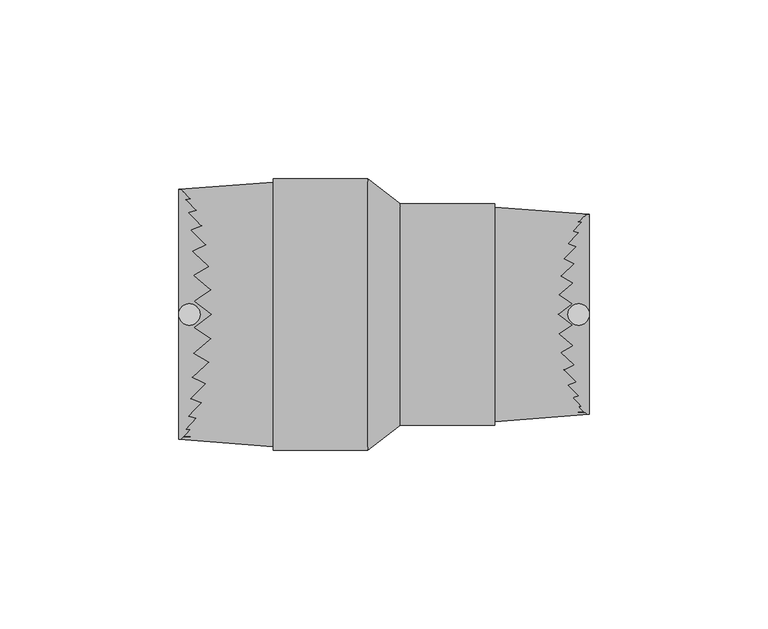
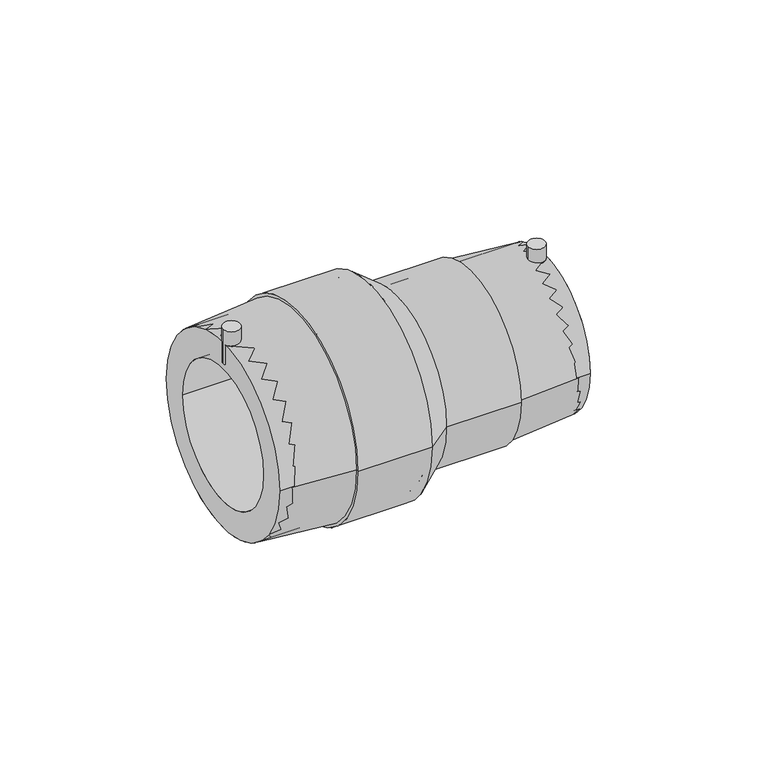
"""IFC4 building model written with IfcOpenShell, lengths in millimetres: pipe fitting geometry, EGB_VASEN_ PPR_Manguito reductor electrosoldable WXRD110 : Manguito reductor electrosoldable WXRD110."""

from ifc_helpers import new_model, si_unit, point, frame, frame_2d, origin, origin_2d, place, context, project, spatial, polyline, circle_curve, trimmed, segment, composite_curve, outline, extrude, source, transform, mapped, element, save
from ifc_brep_helpers import plane_surface, cylinder_surface, revolved_surface, advanced_brep


def pipe_fitting_3c43d94e(model_context):
    return source(origin(), model_context, "Body", "SolidModel", [
        extrude(outline(composite_curve([segment(trimmed(circle_curve(frame_2d((54.5, 0.0)), 3.0), [point((51.5, 0.0))], [point((57.5, 0.0))], False, "CARTESIAN"), True, "CONTINUOUS"), segment(trimmed(circle_curve(frame_2d((54.5, 0.0)), 3.0), [point((57.5, 0.0))], [point((51.5, 0.0))], False, "CARTESIAN"), True, "CONTINUOUS")], self_intersect=False)), frame((0.0, 0.0, 22.0), z_axis=(0.0, 0.0, 1.0), x_axis=(1.0, 0.0, 0.0)), (0.0, 0.0, 1.0), 11.0),
        extrude(outline(composite_curve([segment(trimmed(circle_curve(frame_2d((-54.5, 0.0)), 3.0), [point((-57.5, 0.0))], [point((-51.5, 0.0))], False, "CARTESIAN"), True, "CONTINUOUS"), segment(trimmed(circle_curve(frame_2d((-54.5, 0.0)), 3.0), [point((-51.5, 0.0))], [point((-57.5, 0.0))], False, "CARTESIAN"), True, "CONTINUOUS")], self_intersect=False)), frame((0.0, 0.0, 27.0), z_axis=(0.0, 0.0, 1.0), x_axis=(1.0, 0.0, 0.0)), (0.0, 0.0, 1.0), 13.0),
        extrude(outline(composite_curve([segment(trimmed(circle_curve(origin_2d(), 28.0), [point((-28.0, 0.0))], [point((28.0, 0.0))], False, "CARTESIAN"), True, "CONTINUOUS"), segment(trimmed(circle_curve(origin_2d(), 28.0), [point((28.0, 0.0))], [point((-28.0, 0.0))], False, "CARTESIAN"), True, "CONTINUOUS")], self_intersect=False), holes=[composite_curve([segment(trimmed(circle_curve(origin_2d(), 20.0), [point((-20.0, 0.0))], [point((20.0, 0.0))], True, "CARTESIAN"), True, "CONTINUOUS"), segment(trimmed(circle_curve(origin_2d(), 20.0), [point((20.0, 0.0))], [point((-20.0, 0.0))], True, "CARTESIAN"), True, "CONTINUOUS")], self_intersect=False)]), frame((4.6, 0.0, 0.0), z_axis=(1.0, 0.0, 0.0), x_axis=(0.0, 1.0, 0.0)), (0.0, 0.0, 1.0), 52.9),
        extrude(outline(composite_curve([segment(trimmed(circle_curve(origin_2d(), 35.0), [point((-35.0, 0.0))], [point((35.0, 0.0))], False, "CARTESIAN"), True, "CONTINUOUS"), segment(trimmed(circle_curve(origin_2d(), 35.0), [point((35.0, 0.0))], [point((-35.0, 0.0))], False, "CARTESIAN"), True, "CONTINUOUS")], self_intersect=False), holes=[composite_curve([segment(trimmed(circle_curve(origin_2d(), 25.0), [point((-25.0, 0.0))], [point((25.0, 0.0))], True, "CARTESIAN"), True, "CONTINUOUS"), segment(trimmed(circle_curve(origin_2d(), 25.0), [point((25.0, 0.0))], [point((-25.0, 0.0))], True, "CARTESIAN"), True, "CONTINUOUS")], self_intersect=False)]), frame((-57.5, 0.0, 0.0), z_axis=(1.0, 0.0, 0.0), x_axis=(0.0, 1.0, 0.0)), (0.0, 0.0, 1.0), 52.9),
        advanced_brep(
        [(4.6, -28.0, 0.0), (4.6, 28.0, 0.0), (-4.6, -35.0, 0.0), (-4.6, 35.0, 0.0)],
        [
            (0, 1, circle_curve(frame((4.6, 0.0, 0.0), z_axis=(1.0, 0.0, 0.0), x_axis=(0.0, -1.0, 0.0)), 28.0)),
            (1, 0, circle_curve(frame((4.6, 0.0, 0.0), z_axis=(1.0, 0.0, 0.0), x_axis=(0.0, 1.0, 0.0)), 28.0)),
            (2, 3, circle_curve(frame((-4.6, 0.0, 0.0), z_axis=(-1.0, 0.0, 0.0), x_axis=(0.0, 1.0, 0.0)), 35.0)),
            (3, 2, circle_curve(frame((-4.6, 0.0, 0.0), z_axis=(-1.0, 0.0, 0.0), x_axis=(0.0, -1.0, 0.0)), 35.0)),
            (3, 1),
            (0, 2),
        ],
        [
            plane_surface(frame((4.6, 0.0, 0.0), z_axis=(1.0, 0.0, 0.0), x_axis=(0.0, 0.0, -1.0))),
            plane_surface(frame((-4.6, 0.0, 0.0), z_axis=(-1.0, 0.0, 0.0), x_axis=(0.0, 0.0, -1.0))),
            revolved_surface(polyline([(4.600000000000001, -27.999999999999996, 0.0), (-4.600000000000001, -35.0, 0.0)]), (41.4, 0.0, 0.0), (-1.0, 0.0, 0.0)),
            revolved_surface(polyline([(4.600000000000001, 27.999999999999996, 0.0), (-4.600000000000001, 35.0, 0.0)]), (41.4, 0.0, 0.0), (-1.0, 0.0, 0.0)),
        ],
        [
            (0, [[1, 2]]),
            (1, [[3, 4]]),
            (2, [[-4, 5, -1, 6]]),
            (3, [[-3, -6, -2, -5]]),
        ],
    ),
        advanced_brep(
        [(4.6, -28.0, 0.0), (4.6, 28.0, 0.0), (-4.6, 35.0, 0.0), (-4.6, -35.0, 0.0), (57.5, -28.0, 0.0), (57.5, 28.0, 0.0), (31.05, -30.0, 0.0), (31.05, 30.0, 0.0), (31.05, -31.0, 0.0), (31.05, 31.0, 0.0), (4.6, -31.0, 0.0), (4.6, 31.0, 0.0), (-4.6, -38.0, 0.0), (-4.6, 38.0, 0.0), (-31.05, -38.0, 0.0), (-31.05, 38.0, 0.0), (-31.05, -37.0, 0.0), (-31.05, 37.0, 0.0), (-57.5, -35.0, 0.0), (-57.5, 35.0, 0.0)],
        [
            (0, 1, circle_curve(frame((4.6, 0.0, 0.0), z_axis=(1.0, 0.0, 0.0), x_axis=(0.0, 1.0, 0.0)), 28.0)),
            (1, 2),
            (2, 3, circle_curve(frame((-4.6, 0.0, 0.0), z_axis=(-1.0, 0.0, 0.0), x_axis=(0.0, 1.0, 0.0)), 35.0)),
            (3, 0),
            (1, 0, circle_curve(frame((4.6, 0.0, 0.0), z_axis=(1.0, 0.0, 0.0), x_axis=(0.0, 1.0, 0.0)), 28.0)),
            (3, 2, circle_curve(frame((-4.6, 0.0, 0.0), z_axis=(-1.0, 0.0, 0.0), x_axis=(0.0, 1.0, 0.0)), 35.0)),
            (4, 5, circle_curve(frame((57.5, 0.0, 0.0), z_axis=(1.0, 0.0, 0.0), x_axis=(0.0, 1.0, 0.0)), 28.0)),
            (5, 1),
            (0, 4),
            (5, 4, circle_curve(frame((57.5, 0.0, 0.0), z_axis=(1.0, 0.0, 0.0), x_axis=(0.0, 1.0, 0.0)), 28.0)),
            (6, 7, circle_curve(frame((31.05, 0.0, 0.0), z_axis=(1.0, 0.0, 0.0), x_axis=(0.0, 1.0, 0.0)), 30.0)),
            (7, 5),
            (4, 6),
            (7, 6, circle_curve(frame((31.05, 0.0, 0.0), z_axis=(1.0, 0.0, 0.0), x_axis=(0.0, 1.0, 0.0)), 30.0)),
            (8, 9, circle_curve(frame((31.05, 0.0, 0.0), z_axis=(1.0, 0.0, 0.0), x_axis=(0.0, 1.0, 0.0)), 31.0)),
            (9, 7),
            (6, 8),
            (9, 8, circle_curve(frame((31.05, 0.0, 0.0), z_axis=(1.0, 0.0, 0.0), x_axis=(0.0, 1.0, 0.0)), 31.0)),
            (10, 11, circle_curve(frame((4.6, 0.0, 0.0), z_axis=(1.0, 0.0, 0.0), x_axis=(0.0, 1.0, 0.0)), 31.0)),
            (11, 9),
            (8, 10),
            (11, 10, circle_curve(frame((4.6, 0.0, 0.0), z_axis=(1.0, 0.0, 0.0), x_axis=(0.0, 1.0, 0.0)), 31.0)),
            (12, 13, circle_curve(frame((-4.6, 0.0, 0.0), z_axis=(1.0, 0.0, 0.0), x_axis=(0.0, 1.0, 0.0)), 38.0)),
            (13, 11),
            (10, 12),
            (13, 12, circle_curve(frame((-4.6, 0.0, 0.0), z_axis=(1.0, 0.0, 0.0), x_axis=(0.0, 1.0, 0.0)), 38.0)),
            (14, 15, circle_curve(frame((-31.05, 0.0, 0.0), z_axis=(1.0, 0.0, 0.0), x_axis=(0.0, 1.0, 0.0)), 38.0)),
            (15, 13),
            (12, 14),
            (15, 14, circle_curve(frame((-31.05, 0.0, 0.0), z_axis=(1.0, 0.0, 0.0), x_axis=(0.0, 1.0, 0.0)), 38.0)),
            (16, 17, circle_curve(frame((-31.05, 0.0, 0.0), z_axis=(1.0, 0.0, 0.0), x_axis=(0.0, 1.0, 0.0)), 37.0)),
            (17, 15),
            (14, 16),
            (17, 16, circle_curve(frame((-31.05, 0.0, 0.0), z_axis=(1.0, 0.0, 0.0), x_axis=(0.0, 1.0, 0.0)), 37.0)),
            (18, 19, circle_curve(frame((-57.5, 0.0, 0.0), z_axis=(1.0, 0.0, 0.0), x_axis=(0.0, 1.0, 0.0)), 35.0)),
            (19, 17),
            (16, 18),
            (19, 18, circle_curve(frame((-57.5, 0.0, 0.0), z_axis=(1.0, 0.0, 0.0), x_axis=(0.0, 1.0, 0.0)), 35.0)),
            (2, 19),
            (18, 3),
        ],
        [
            revolved_surface(polyline([(-4.6, 35.0, 0.0), (4.6, 28.0, 0.0)]), (-92.5, 0.0, 0.0), (-1.0, 0.0, 0.0)),
            revolved_surface(polyline([(4.599999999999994, 28.0, 0.0), (57.5, 28.0, 0.0)]), (-92.5, 0.0, 0.0), (-1.0, 0.0, 0.0)),
            revolved_surface(polyline([(57.5, 28.0, 0.0), (31.05, 30.0, 0.0)]), (-92.5, 0.0, 0.0), (-1.0, 0.0, 0.0)),
            plane_surface(frame((31.05, 0.0, 0.0), z_axis=(1.0, 0.0, 0.0), x_axis=(0.0, 1.0, 0.0))),
            cylinder_surface(frame((-92.5, 0.0, 0.0), z_axis=(-1.0, 0.0, 0.0), x_axis=(0.0, 1.0, 0.0)), 31.0),
            revolved_surface(polyline([(4.6, 31.0, 0.0), (-4.6, 38.0, 0.0)]), (-92.5, 0.0, 0.0), (-1.0, 0.0, 0.0)),
            cylinder_surface(frame((-92.5, 0.0, 0.0), z_axis=(-1.0, 0.0, 0.0), x_axis=(0.0, 1.0, 0.0)), 38.0),
            plane_surface(frame((-31.05, 0.0, 0.0), z_axis=(-1.0, 0.0, 0.0), x_axis=(0.0, 1.0, 0.0))),
            revolved_surface(polyline([(-31.05, 37.0, 0.0), (-57.5, 35.0, 0.0)]), (-92.5, 0.0, 0.0), (-1.0, 0.0, 0.0)),
            revolved_surface(polyline([(-57.5, 35.0, 0.0), (-4.599999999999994, 35.0, 0.0)]), (-92.5, 0.0, 0.0), (-1.0, 0.0, 0.0)),
        ],
        [
            (0, [[1, 2, 3, 4]]),
            (0, [[5, -4, 6, -2]]),
            (1, [[7, 8, -1, 9]]),
            (1, [[10, -9, -5, -8]]),
            (2, [[11, 12, -7, 13]]),
            (2, [[14, -13, -10, -12]]),
            (3, [[15, 16, -11, 17]]),
            (3, [[18, -17, -14, -16]]),
            (4, [[19, 20, -15, 21]]),
            (4, [[22, -21, -18, -20]]),
            (5, [[23, 24, -19, 25]]),
            (5, [[26, -25, -22, -24]]),
            (6, [[27, 28, -23, 29]]),
            (6, [[30, -29, -26, -28]]),
            (7, [[31, 32, -27, 33]]),
            (7, [[34, -33, -30, -32]]),
            (8, [[35, 36, -31, 37]]),
            (8, [[38, -37, -34, -36]]),
            (9, [[-3, 39, -35, 40]]),
            (9, [[-6, -40, -38, -39]]),
        ],
    ),
    ])


if __name__ == "__main__":
    model = new_model("IFC4")
    model_context = context("Model", 3, world=origin())
    ifc_project = project(units=[si_unit("LENGTHUNIT", "METRE", prefix="MILLI")], contexts=[model_context])
    site = spatial("IfcSite", under=ifc_project)
    building = spatial("IfcBuilding", under=site)
    placement = place(None, origin())
    pipe_fitting_shape = pipe_fitting_3c43d94e(model_context)
    element("IfcPipeFitting", 1, ObjectType="EGB_VASEN_ PPR_Manguito reductor electrosoldable WXRD110 : Manguito reductor electrosoldable WXRD110", at=placement, inside=building, context=model_context, shape_type="MappedRepresentation", body=[
        mapped(pipe_fitting_shape, transform((0.0, 0.0, 0.0), x_axis=(1.0, 0.0, 0.0), y_axis=(0.0, 1.0, 0.0), z_axis=(0.0, 0.0, 1.0))),
    ])
    save(model, "model.ifc")
